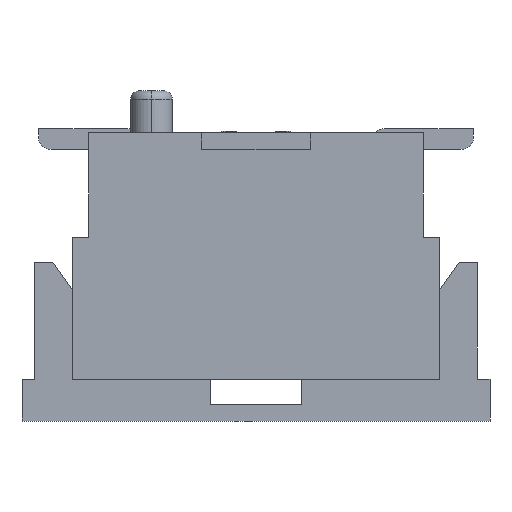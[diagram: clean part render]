
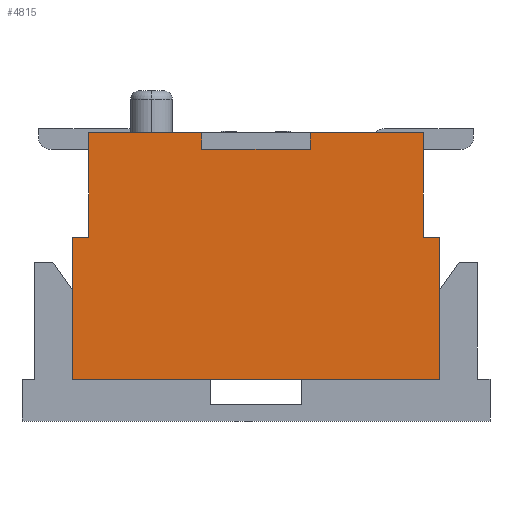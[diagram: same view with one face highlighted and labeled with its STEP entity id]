
A CAD part, left-side view. The second image highlights one B-rep face of the part: STEP entity #4815.
In plain terms, the highlighted planar face has unit normal (-1, 0, 0).
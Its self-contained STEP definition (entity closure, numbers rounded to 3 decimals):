
#146=CARTESIAN_POINT('Vertex',(-2.6,2.,2.95)) ;
#151=CARTESIAN_POINT('Line Origine',(-2.6,1.325,2.95)) ;
#155=CARTESIAN_POINT('Vertex',(-2.6,0.65,2.95)) ;
#176=CARTESIAN_POINT('Vertex',(-2.6,-0.65,2.95)) ;
#179=CARTESIAN_POINT('Line Origine',(-2.6,-1.325,2.95)) ;
#183=CARTESIAN_POINT('Vertex',(-2.6,-2.,2.95)) ;
#346=CARTESIAN_POINT('Line Origine',(-2.6,-2.,2.325)) ;
#350=CARTESIAN_POINT('Vertex',(-2.6,-2.,1.7)) ;
#1293=CARTESIAN_POINT('Vertex',(-2.6,2.,1.7)) ;
#1296=CARTESIAN_POINT('Line Origine',(-2.6,2.,2.325)) ;
#1637=CARTESIAN_POINT('Vertex',(-2.6,-2.2,0.)) ;
#1642=CARTESIAN_POINT('Line Origine',(-2.6,0.,0.)) ;
#1646=CARTESIAN_POINT('Vertex',(-2.6,2.2,0.)) ;
#4503=CARTESIAN_POINT('Line Origine',(-2.6,0.65,2.85)) ;
#4507=CARTESIAN_POINT('Vertex',(-2.6,0.65,2.75)) ;
#4551=CARTESIAN_POINT('Line Origine',(-2.6,-0.65,2.85)) ;
#4555=CARTESIAN_POINT('Vertex',(-2.6,-0.65,2.75)) ;
#4642=CARTESIAN_POINT('Vertex',(-2.6,-2.2,1.7)) ;
#4645=CARTESIAN_POINT('Line Origine',(-2.6,-2.2,0.85)) ;
#4662=CARTESIAN_POINT('Line Origine',(-2.6,2.2,0.85)) ;
#4666=CARTESIAN_POINT('Vertex',(-2.6,2.2,1.7)) ;
#4686=CARTESIAN_POINT('Line Origine',(-2.6,2.1,1.7)) ;
#4698=CARTESIAN_POINT('Line Origine',(-2.6,0.,2.75)) ;
#4784=CARTESIAN_POINT('Line Origine',(-2.6,-2.1,1.7)) ;
#4796=CARTESIAN_POINT('Axis2P3D Location',(-2.6,0.,0.)) ;
#152=DIRECTION('Vector Direction',(0.,-1.,0.)) ;
#180=DIRECTION('Vector Direction',(0.,-1.,0.)) ;
#347=DIRECTION('Vector Direction',(0.,0.,1.)) ;
#1297=DIRECTION('Vector Direction',(0.,0.,1.)) ;
#1643=DIRECTION('Vector Direction',(0.,1.,0.)) ;
#4504=DIRECTION('Vector Direction',(0.,0.,-1.)) ;
#4552=DIRECTION('Vector Direction',(0.,0.,-1.)) ;
#4646=DIRECTION('Vector Direction',(0.,0.,1.)) ;
#4663=DIRECTION('Vector Direction',(0.,0.,1.)) ;
#4687=DIRECTION('Vector Direction',(0.,-1.,0.)) ;
#4699=DIRECTION('Vector Direction',(0.,1.,0.)) ;
#4785=DIRECTION('Vector Direction',(0.,1.,0.)) ;
#4797=DIRECTION('Axis2P3D Direction',(1.,0.,0.)) ;
#4798=DIRECTION('Axis2P3D XDirection',(0.,1.,0.)) ;
#4799=AXIS2_PLACEMENT_3D('Plane Axis2P3D',#4796,#4797,#4798) ;
#4802=ORIENTED_EDGE('',*,*,#4557,.T.) ;
#4803=ORIENTED_EDGE('',*,*,#4702,.F.) ;
#4804=ORIENTED_EDGE('',*,*,#4509,.F.) ;
#4805=ORIENTED_EDGE('',*,*,#157,.F.) ;
#4806=ORIENTED_EDGE('',*,*,#1300,.F.) ;
#4807=ORIENTED_EDGE('',*,*,#4690,.F.) ;
#4808=ORIENTED_EDGE('',*,*,#4668,.F.) ;
#4809=ORIENTED_EDGE('',*,*,#1648,.F.) ;
#4810=ORIENTED_EDGE('',*,*,#4649,.F.) ;
#4811=ORIENTED_EDGE('',*,*,#4788,.F.) ;
#4812=ORIENTED_EDGE('',*,*,#352,.F.) ;
#4813=ORIENTED_EDGE('',*,*,#185,.F.) ;
#153=VECTOR('Line Direction',#152,1.) ;
#181=VECTOR('Line Direction',#180,1.) ;
#348=VECTOR('Line Direction',#347,1.) ;
#1298=VECTOR('Line Direction',#1297,1.) ;
#1644=VECTOR('Line Direction',#1643,1.) ;
#4505=VECTOR('Line Direction',#4504,1.) ;
#4553=VECTOR('Line Direction',#4552,1.) ;
#4647=VECTOR('Line Direction',#4646,1.) ;
#4664=VECTOR('Line Direction',#4663,1.) ;
#4688=VECTOR('Line Direction',#4687,1.) ;
#4700=VECTOR('Line Direction',#4699,1.) ;
#4786=VECTOR('Line Direction',#4785,1.) ;
#4815=ADVANCED_FACE('\X2\96F64EF651E04F554F53\X0\',(#4814),#4800,.F.) ;
#157=EDGE_CURVE('',#147,#156,#154,.T.) ;
#185=EDGE_CURVE('',#177,#184,#182,.T.) ;
#352=EDGE_CURVE('',#184,#351,#349,.F.) ;
#1300=EDGE_CURVE('',#1294,#147,#1299,.T.) ;
#1648=EDGE_CURVE('',#1638,#1647,#1645,.T.) ;
#4509=EDGE_CURVE('',#156,#4508,#4506,.T.) ;
#4557=EDGE_CURVE('',#177,#4556,#4554,.T.) ;
#4649=EDGE_CURVE('',#4643,#1638,#4648,.F.) ;
#4668=EDGE_CURVE('',#1647,#4667,#4665,.T.) ;
#4690=EDGE_CURVE('',#4667,#1294,#4689,.T.) ;
#4702=EDGE_CURVE('',#4508,#4556,#4701,.F.) ;
#4788=EDGE_CURVE('',#351,#4643,#4787,.F.) ;
#4801=EDGE_LOOP('',(#4802,#4803,#4804,#4805,#4806,#4807,#4808,#4809,#4810,#4811,#4812,#4813)) ;
#4814=FACE_OUTER_BOUND('',#4801,.T.) ;
#154=LINE('Line',#151,#153) ;
#182=LINE('Line',#179,#181) ;
#349=LINE('Line',#346,#348) ;
#1299=LINE('Line',#1296,#1298) ;
#1645=LINE('Line',#1642,#1644) ;
#4506=LINE('Line',#4503,#4505) ;
#4554=LINE('Line',#4551,#4553) ;
#4648=LINE('Line',#4645,#4647) ;
#4665=LINE('Line',#4662,#4664) ;
#4689=LINE('Line',#4686,#4688) ;
#4701=LINE('Line',#4698,#4700) ;
#4787=LINE('Line',#4784,#4786) ;
#4800=PLANE('Plane',#4799) ;
#147=VERTEX_POINT('',#146) ;
#156=VERTEX_POINT('',#155) ;
#177=VERTEX_POINT('',#176) ;
#184=VERTEX_POINT('',#183) ;
#351=VERTEX_POINT('',#350) ;
#1294=VERTEX_POINT('',#1293) ;
#1638=VERTEX_POINT('',#1637) ;
#1647=VERTEX_POINT('',#1646) ;
#4508=VERTEX_POINT('',#4507) ;
#4556=VERTEX_POINT('',#4555) ;
#4643=VERTEX_POINT('',#4642) ;
#4667=VERTEX_POINT('',#4666) ;
